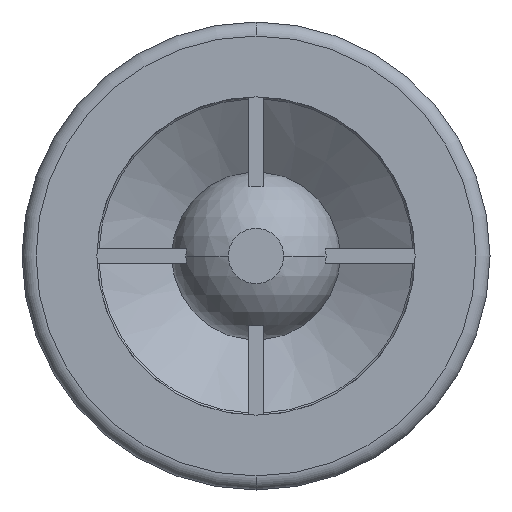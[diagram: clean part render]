
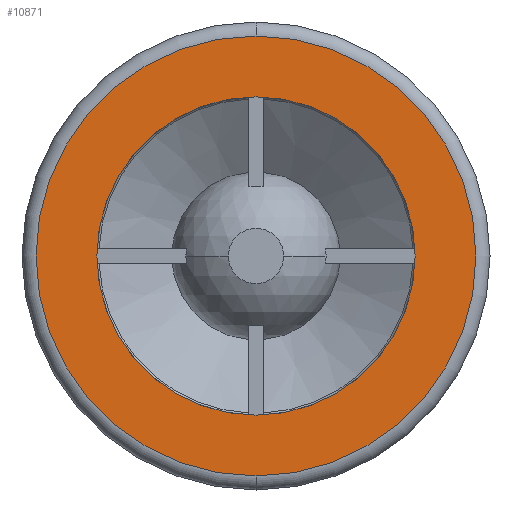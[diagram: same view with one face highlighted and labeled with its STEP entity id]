
A CAD part, front view. The second image highlights one B-rep face of the part: STEP entity #10871.
In plain terms, the highlighted planar face has unit normal (0, -1, 0).
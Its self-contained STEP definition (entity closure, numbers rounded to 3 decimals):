
#1158 = EDGE_CURVE ( 'NONE', #1159, #1160, #4374, .T. ) ;
#1159 = VERTEX_POINT ( 'NONE', #4366 ) ;
#1160 = VERTEX_POINT ( 'NONE', #4365 ) ;
#4365 = CARTESIAN_POINT ( 'NONE',  ( 0., 0., 23.5 ) ) ;
#4366 = CARTESIAN_POINT ( 'NONE',  ( 0., 0., -23.5 ) ) ;
#4367 = DIRECTION ( 'NONE',  ( 0., 0., 1. ) ) ;
#4368 = DIRECTION ( 'NONE',  ( 0., -1., 0. ) ) ;
#4369 = CARTESIAN_POINT ( 'NONE',  ( 0., 0., 0. ) ) ;
#4370 = AXIS2_PLACEMENT_3D ( 'NONE', #4369, #4368, #4367 ) ;
#4374 = CIRCLE ( 'NONE', #4370, 23.5 ) ;
#4660 = EDGE_CURVE ( 'NONE', #5308, #11463, #6389, .T. ) ;
#5308 = VERTEX_POINT ( 'NONE', #6438 ) ;
#6385 = DIRECTION ( 'NONE',  ( 0., 0., -1. ) ) ;
#6386 = DIRECTION ( 'NONE',  ( 0., -1., 0. ) ) ;
#6387 = CARTESIAN_POINT ( 'NONE',  ( 0., 0., 0. ) ) ;
#6388 = AXIS2_PLACEMENT_3D ( 'NONE', #6387, #6386, #6385 ) ;
#6389 = CIRCLE ( 'NONE', #6388, 17. ) ;
#6438 = CARTESIAN_POINT ( 'NONE',  ( 0., 0., 17. ) ) ;
#8238 = FACE_BOUND ( 'NONE', #10960, .T. ) ;
#8239 = FACE_OUTER_BOUND ( 'NONE', #10881, .T. ) ;
#8283 = DIRECTION ( 'NONE',  ( 0., 0., 1. ) ) ;
#8284 = DIRECTION ( 'NONE',  ( 0., -1., 0. ) ) ;
#8285 = CARTESIAN_POINT ( 'NONE',  ( 0., 0., 0. ) ) ;
#8286 = AXIS2_PLACEMENT_3D ( 'NONE', #8285, #8284, #8283 ) ;
#8287 = CIRCLE ( 'NONE', #8286, 23.5 ) ;
#8295 = DIRECTION ( 'NONE',  ( 0., 0., 1. ) ) ;
#8296 = DIRECTION ( 'NONE',  ( 0., 1., 0. ) ) ;
#8297 = CARTESIAN_POINT ( 'NONE',  ( -17., 0., 0. ) ) ;
#8298 = AXIS2_PLACEMENT_3D ( 'NONE', #8297, #8296, #8295 ) ;
#8299 = PLANE ( 'NONE',  #8298 ) ;
#9199 = DIRECTION ( 'NONE',  ( 0., 0., -1. ) ) ;
#9200 = DIRECTION ( 'NONE',  ( 0., -1., 0. ) ) ;
#9201 = CARTESIAN_POINT ( 'NONE',  ( 0., 0., 0. ) ) ;
#9202 = AXIS2_PLACEMENT_3D ( 'NONE', #9201, #9200, #9199 ) ;
#9203 = CIRCLE ( 'NONE', #9202, 17. ) ;
#9326 = CARTESIAN_POINT ( 'NONE',  ( 0., 0., -17. ) ) ;
#10871 = ADVANCED_FACE ( 'NONE', ( #8239, #8238 ), #8299, .F. ) ;
#10875 = ORIENTED_EDGE ( 'NONE', *, *, #10877, .T. ) ;
#10876 = ORIENTED_EDGE ( 'NONE', *, *, #1158, .T. ) ;
#10877 = EDGE_CURVE ( 'NONE', #1160, #1159, #8287, .T. ) ;
#10881 = EDGE_LOOP ( 'NONE', ( #10875, #10876 ) ) ;
#10942 = ORIENTED_EDGE ( 'NONE', *, *, #4660, .F. ) ;
#10951 = ORIENTED_EDGE ( 'NONE', *, *, #11395, .F. ) ;
#10960 = EDGE_LOOP ( 'NONE', ( #10951, #10942 ) ) ;
#11395 = EDGE_CURVE ( 'NONE', #11463, #5308, #9203, .T. ) ;
#11463 = VERTEX_POINT ( 'NONE', #9326 ) ;
